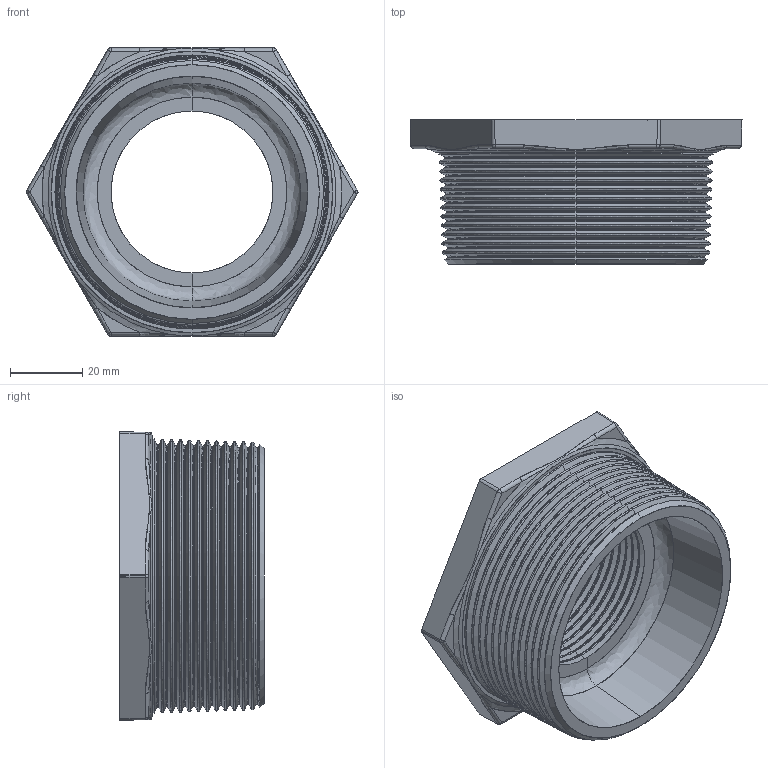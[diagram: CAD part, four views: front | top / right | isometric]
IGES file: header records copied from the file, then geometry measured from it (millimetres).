
Start section: SolidWorks IGES file using analytic representation for surfaces
Global section: file name: C:\Users\Joel Rosa\Desktop\Tubulação\12-01-OK\12-01-050.IGS; native system: SolidWorks 2011; preprocessor: SolidWorks 2011; author: Joel Rosa; date: 121203.200636; units: millimetre
Bounding box: 92.07 x 40 x 80 mm (x, y, z)
Surface area: 29885.2 mm2 (no closed solid volume)
Topology: 0 solids, 0 shells, 433 faces, 3544 edges, 3544 vertices
Faces by surface type: bspline 311, revolution 122
